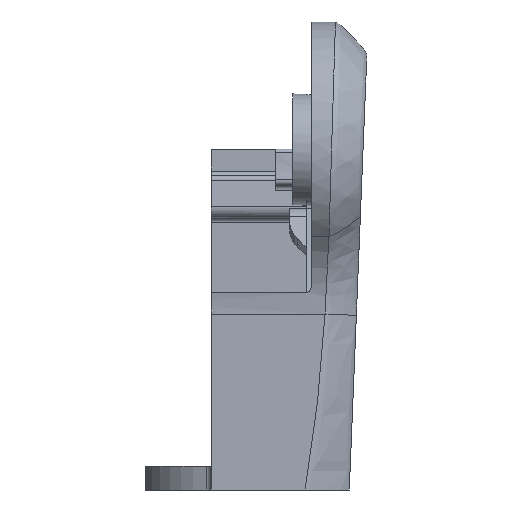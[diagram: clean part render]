
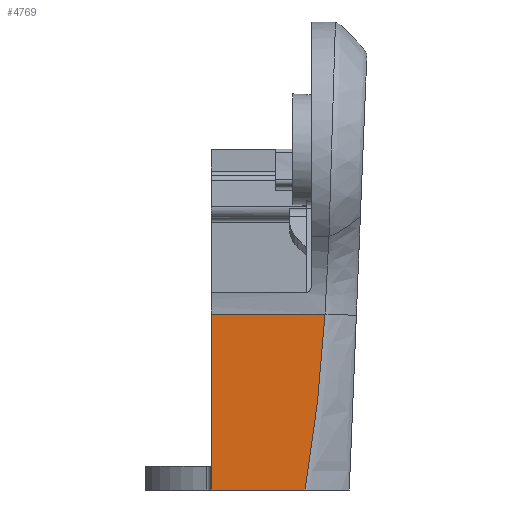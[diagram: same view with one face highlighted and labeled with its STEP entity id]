
A CAD part, front view. The second image highlights one B-rep face of the part: STEP entity #4769.
In plain terms, the highlighted planar face has unit normal (0, -1, 0).
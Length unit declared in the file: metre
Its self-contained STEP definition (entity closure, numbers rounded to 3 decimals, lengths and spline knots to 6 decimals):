
#518=B_SPLINE_CURVE_WITH_KNOTS('',3,(#14125,#14126,#14127,#14128,#14129,
#14130,#14131,#14132,#14133,#14134,#14135,#14136,#14137,#14138,#14139,#14140,
#14141,#14142,#14143,#14144,#14145,#14146,#14147,#14148,#14149,#14150,#14151,
#14152,#14153,#14154,#14155,#14156,#14157,#14158,#14159,#14160,#14161,#14162,
#14163,#14164,#14165,#14166,#14167),.UNSPECIFIED.,.F.,.F.,(4,1,1,1,1,1,
1,1,1,1,1,1,1,1,1,1,1,1,1,1,1,1,1,1,1,1,1,1,1,1,1,1,1,1,1,1,1,1,1,1,4),
(0.,0.0625,0.125,0.1875,0.21875,0.234375,0.25,0.265625,0.28125,0.3125,0.375,
0.40625,0.4375,0.46875,0.484375,0.492188,0.5,0.507813,0.515625,0.53125,
0.5625,0.625,0.65625,0.6875,0.703125,0.71875,0.734375,0.742188,0.746094,
0.75,0.753906,0.757813,0.765625,0.78125,0.796875,0.8125,0.84375,0.875,
0.90625,0.9375,1.),.UNSPECIFIED.);
#560=LINE('',#6651,#760);
#637=LINE('',#13750,#837);
#658=LINE('',#14169,#858);
#760=VECTOR('',#5430,1.);
#837=VECTOR('',#5841,1.);
#858=VECTOR('',#5924,1.);
#1654=ORIENTED_EDGE('',*,*,#2859,.F.);
#1655=ORIENTED_EDGE('',*,*,#2860,.F.);
#1656=ORIENTED_EDGE('',*,*,#2803,.T.);
#1657=ORIENTED_EDGE('',*,*,#2394,.F.);
#2394=EDGE_CURVE('',#3108,#3109,#560,.T.);
#2803=EDGE_CURVE('',#3394,#3109,#637,.T.);
#2859=EDGE_CURVE('',#3434,#3108,#518,.T.);
#2860=EDGE_CURVE('',#3394,#3434,#658,.F.);
#3108=VERTEX_POINT('',#6650);
#3109=VERTEX_POINT('',#6652);
#3394=VERTEX_POINT('',#13751);
#3434=VERTEX_POINT('',#14168);
#3943=EDGE_LOOP('',(#1654,#1655,#1656,#1657));
#4327=FACE_BOUND('',#3943,.T.);
#4586=PLANE('',#5158);
#4769=ADVANCED_FACE('',(#4327),#4586,.F.);
#5158=AXIS2_PLACEMENT_3D('',#14124,#5922,#5923);
#5430=DIRECTION('',(-1.,0.,0.));
#5841=DIRECTION('',(0.,0.,-1.));
#5922=DIRECTION('',(0.,1.,0.));
#5923=DIRECTION('',(0.,0.,1.));
#5924=DIRECTION('',(-1.,0.,0.));
#6650=CARTESIAN_POINT('',(-0.191072,-0.02465,-0.0405));
#6651=CARTESIAN_POINT('',(0.865599,-0.02465,-0.0405));
#6652=CARTESIAN_POINT('',(-0.221,-0.02465,-0.0405));
#13750=CARTESIAN_POINT('',(-0.221,-0.02465,-0.003957));
#13751=CARTESIAN_POINT('',(-0.221,-0.02465,0.015509));
#14124=CARTESIAN_POINT('',(0.865599,-0.02465,-0.003957));
#14125=CARTESIAN_POINT('',(-0.184753,-0.02465,0.015509));
#14126=CARTESIAN_POINT('',(-0.184798,-0.02465,0.014395));
#14127=CARTESIAN_POINT('',(-0.184903,-0.02465,0.012139));
#14128=CARTESIAN_POINT('',(-0.185108,-0.02465,0.008672));
#14129=CARTESIAN_POINT('',(-0.185318,-0.02465,0.005719));
#14130=CARTESIAN_POINT('',(-0.185486,-0.02465,0.003606));
#14131=CARTESIAN_POINT('',(-0.185587,-0.02465,0.002404));
#14132=CARTESIAN_POINT('',(-0.18567,-0.02465,0.001452));
#14133=CARTESIAN_POINT('',(-0.185739,-0.02465,0.000668));
#14134=CARTESIAN_POINT('',(-0.185842,-0.02465,-0.000448));
#14135=CARTESIAN_POINT('',(-0.186027,-0.02465,-0.002398));
#14136=CARTESIAN_POINT('',(-0.186261,-0.02465,-0.004697));
#14137=CARTESIAN_POINT('',(-0.186515,-0.02465,-0.00705));
#14138=CARTESIAN_POINT('',(-0.186717,-0.02465,-0.008846));
#14139=CARTESIAN_POINT('',(-0.186893,-0.02465,-0.010362));
#14140=CARTESIAN_POINT('',(-0.187022,-0.02465,-0.011445));
#14141=CARTESIAN_POINT('',(-0.187096,-0.02465,-0.012054));
#14142=CARTESIAN_POINT('',(-0.187156,-0.02465,-0.012548));
#14143=CARTESIAN_POINT('',(-0.1872,-0.02465,-0.01291));
#14144=CARTESIAN_POINT('',(-0.187266,-0.02465,-0.013443));
#14145=CARTESIAN_POINT('',(-0.18738,-0.02465,-0.014364));
#14146=CARTESIAN_POINT('',(-0.187621,-0.02465,-0.016266));
#14147=CARTESIAN_POINT('',(-0.187917,-0.02465,-0.018531));
#14148=CARTESIAN_POINT('',(-0.188235,-0.02465,-0.020895));
#14149=CARTESIAN_POINT('',(-0.188443,-0.02465,-0.022414));
#14150=CARTESIAN_POINT('',(-0.188615,-0.02465,-0.023653));
#14151=CARTESIAN_POINT('',(-0.188747,-0.02465,-0.024596));
#14152=CARTESIAN_POINT('',(-0.188858,-0.02465,-0.025387));
#14153=CARTESIAN_POINT('',(-0.188939,-0.02465,-0.025956));
#14154=CARTESIAN_POINT('',(-0.188983,-0.02465,-0.026267));
#14155=CARTESIAN_POINT('',(-0.189022,-0.02465,-0.026546));
#14156=CARTESIAN_POINT('',(-0.189038,-0.02465,-0.026654));
#14157=CARTESIAN_POINT('',(-0.189067,-0.02465,-0.026862));
#14158=CARTESIAN_POINT('',(-0.189117,-0.02465,-0.027205));
#14159=CARTESIAN_POINT('',(-0.189193,-0.02465,-0.027734));
#14160=CARTESIAN_POINT('',(-0.189289,-0.02465,-0.0284));
#14161=CARTESIAN_POINT('',(-0.189425,-0.02465,-0.02934));
#14162=CARTESIAN_POINT('',(-0.189609,-0.02465,-0.030609));
#14163=CARTESIAN_POINT('',(-0.189854,-0.02465,-0.032282));
#14164=CARTESIAN_POINT('',(-0.190123,-0.02465,-0.034105));
#14165=CARTESIAN_POINT('',(-0.190512,-0.02465,-0.036736));
#14166=CARTESIAN_POINT('',(-0.190838,-0.02465,-0.038934));
#14167=CARTESIAN_POINT('',(-0.191072,-0.02465,-0.0405));
#14168=CARTESIAN_POINT('',(-0.184753,-0.02465,0.015509));
#14169=CARTESIAN_POINT('',(0.865599,-0.02465,0.015509));
